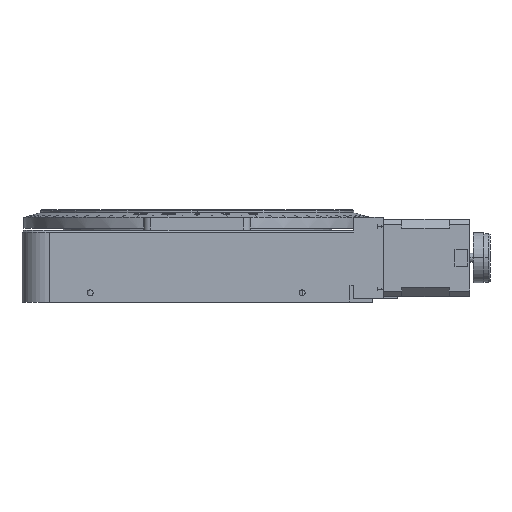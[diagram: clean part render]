
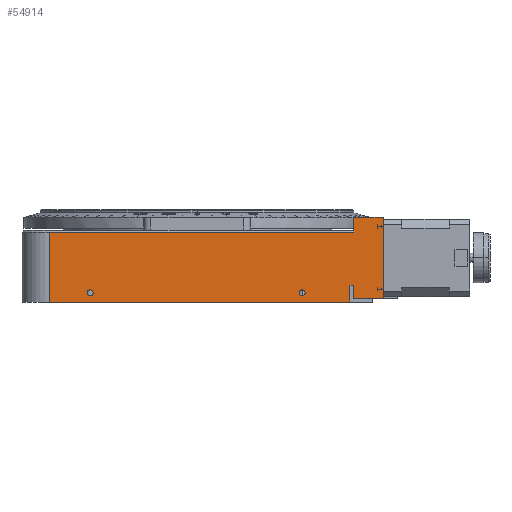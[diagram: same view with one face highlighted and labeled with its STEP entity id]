
A CAD part, left-side view. The second image highlights one B-rep face of the part: STEP entity #54914.
In plain terms, the highlighted planar face has unit normal (-1, 0, 0).
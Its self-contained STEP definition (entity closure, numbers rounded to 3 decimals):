
#27019 = EDGE_CURVE ( 'NONE', #58071, #58164, #37550, .T. ) ;
#27128 = EDGE_CURVE ( 'NONE', #58035, #58137, #37700, .T. ) ;
#27140 = EDGE_CURVE ( 'NONE', #27142, #27266, #37683, .T. ) ;
#27142 = VERTEX_POINT ( 'NONE', #37678 ) ;
#27213 = EDGE_CURVE ( 'NONE', #27266, #27340, #37739, .T. ) ;
#27245 = VERTEX_POINT ( 'NONE', #37802 ) ;
#27266 = VERTEX_POINT ( 'NONE', #37835 ) ;
#27290 = EDGE_CURVE ( 'NONE', #27293, #27245, #37866, .T. ) ;
#27293 = VERTEX_POINT ( 'NONE', #37856 ) ;
#27317 = VERTEX_POINT ( 'NONE', #37877 ) ;
#27340 = VERTEX_POINT ( 'NONE', #37914 ) ;
#27373 = EDGE_CURVE ( 'NONE', #27317, #27142, #37979, .T. ) ;
#28514 = VERTEX_POINT ( 'NONE', #39339 ) ;
#37540 = DIRECTION ( 'NONE',  ( 0., -1., 0. ) ) ;
#37541 = DIRECTION ( 'NONE',  ( 1., 0., 0. ) ) ;
#37542 = CARTESIAN_POINT ( 'NONE',  ( -21.827, -119.488, 5. ) ) ;
#37543 = AXIS2_PLACEMENT_3D ( 'NONE', #37542, #37541, #37540 ) ;
#37550 = CIRCLE ( 'NONE', #37543, 1.621 ) ;
#37678 = CARTESIAN_POINT ( 'NONE',  ( -21.827, -163.488, 2. ) ) ;
#37680 = DIRECTION ( 'NONE',  ( 0., 0., 1. ) ) ;
#37681 = VECTOR ( 'NONE', #37680, 1000. ) ;
#37682 = CARTESIAN_POINT ( 'NONE',  ( -21.827, -163.488, 2. ) ) ;
#37683 = LINE ( 'NONE', #37682, #37681 ) ;
#37696 = DIRECTION ( 'NONE',  ( 0., -1., 0. ) ) ;
#37697 = DIRECTION ( 'NONE',  ( 1., 0., 0. ) ) ;
#37698 = CARTESIAN_POINT ( 'NONE',  ( -21.827, -4.488, 5. ) ) ;
#37699 = AXIS2_PLACEMENT_3D ( 'NONE', #37698, #37697, #37696 ) ;
#37700 = CIRCLE ( 'NONE', #37699, 1.621 ) ;
#37730 = DIRECTION ( 'NONE',  ( 0., 1., 0. ) ) ;
#37731 = VECTOR ( 'NONE', #37730, 1000. ) ;
#37732 = CARTESIAN_POINT ( 'NONE',  ( -21.827, -157.488, 46. ) ) ;
#37739 = LINE ( 'NONE', #37732, #37731 ) ;
#37802 = CARTESIAN_POINT ( 'NONE',  ( -21.827, -147.488, 9. ) ) ;
#37835 = CARTESIAN_POINT ( 'NONE',  ( -21.827, -163.488, 46. ) ) ;
#37856 = CARTESIAN_POINT ( 'NONE',  ( -21.827, -145.488, 9. ) ) ;
#37857 = DIRECTION ( 'NONE',  ( 0., -1., 0. ) ) ;
#37858 = VECTOR ( 'NONE', #37857, 1000. ) ;
#37859 = CARTESIAN_POINT ( 'NONE',  ( -21.827, -157.488, 9. ) ) ;
#37866 = LINE ( 'NONE', #37859, #37858 ) ;
#37877 = CARTESIAN_POINT ( 'NONE',  ( -21.827, -147.488, 2. ) ) ;
#37914 = CARTESIAN_POINT ( 'NONE',  ( -21.827, -147.488, 46. ) ) ;
#37976 = DIRECTION ( 'NONE',  ( 0., -1., 0. ) ) ;
#37977 = VECTOR ( 'NONE', #37976, 1000. ) ;
#37978 = CARTESIAN_POINT ( 'NONE',  ( -21.827, -157.488, 2. ) ) ;
#37979 = LINE ( 'NONE', #37978, #37977 ) ;
#39339 = CARTESIAN_POINT ( 'NONE',  ( -21.827, 17.512, 38. ) ) ;
#39879 = LINE ( 'NONE', #39938, #39937 ) ;
#39906 = DIRECTION ( 'NONE',  ( 0., 1., 0. ) ) ;
#39907 = VECTOR ( 'NONE', #39906, 1000. ) ;
#39908 = CARTESIAN_POINT ( 'NONE',  ( -21.827, -157.488, 38. ) ) ;
#39909 = LINE ( 'NONE', #39908, #39907 ) ;
#39936 = DIRECTION ( 'NONE',  ( 0., 0., -1. ) ) ;
#39937 = VECTOR ( 'NONE', #39936, 1000. ) ;
#39938 = CARTESIAN_POINT ( 'NONE',  ( -21.827, -147.488, 2. ) ) ;
#39970 = CARTESIAN_POINT ( 'NONE',  ( -21.827, -147.488, 38. ) ) ;
#39989 = DIRECTION ( 'NONE',  ( 0., 0., -1. ) ) ;
#39990 = VECTOR ( 'NONE', #39989, 1000. ) ;
#39991 = CARTESIAN_POINT ( 'NONE',  ( -21.827, -147.488, 2. ) ) ;
#39992 = LINE ( 'NONE', #39991, #39990 ) ;
#40855 = CARTESIAN_POINT ( 'NONE',  ( -21.827, -145.488, 0. ) ) ;
#40878 = DIRECTION ( 'NONE',  ( 0., 0., -1. ) ) ;
#40879 = VECTOR ( 'NONE', #40878, 1000. ) ;
#40880 = CARTESIAN_POINT ( 'NONE',  ( -21.827, 17.512, 2. ) ) ;
#40881 = LINE ( 'NONE', #40880, #40879 ) ;
#40887 = CARTESIAN_POINT ( 'NONE',  ( -21.827, 17.512, 0. ) ) ;
#40917 = DIRECTION ( 'NONE',  ( 0., 0., 1. ) ) ;
#40918 = VECTOR ( 'NONE', #40917, 1000. ) ;
#40919 = CARTESIAN_POINT ( 'NONE',  ( -21.827, -145.488, 2. ) ) ;
#40924 = LINE ( 'NONE', #40919, #40918 ) ;
#40948 = DIRECTION ( 'NONE',  ( 0., -1., 0. ) ) ;
#40949 = DIRECTION ( 'NONE',  ( -1., 0., 0. ) ) ;
#40950 = CARTESIAN_POINT ( 'NONE',  ( -21.827, -157.488, 2. ) ) ;
#40951 = AXIS2_PLACEMENT_3D ( 'NONE', #40950, #40949, #40948 ) ;
#40952 = PLANE ( 'NONE',  #40951 ) ;
#40953 = FACE_BOUND ( 'NONE', #54889, .T. ) ;
#40954 = FACE_BOUND ( 'NONE', #54877, .T. ) ;
#40955 = FACE_OUTER_BOUND ( 'NONE', #54915, .T. ) ;
#41066 = DIRECTION ( 'NONE',  ( 0., -1., 0. ) ) ;
#41067 = VECTOR ( 'NONE', #41066, 1000. ) ;
#41068 = CARTESIAN_POINT ( 'NONE',  ( -21.827, -157.488, 0. ) ) ;
#41069 = LINE ( 'NONE', #41068, #41067 ) ;
#46233 = DIRECTION ( 'NONE',  ( 0., -1., 0. ) ) ;
#46234 = DIRECTION ( 'NONE',  ( 1., 0., 0. ) ) ;
#46235 = CARTESIAN_POINT ( 'NONE',  ( -21.827, -4.488, 5. ) ) ;
#46236 = AXIS2_PLACEMENT_3D ( 'NONE', #46235, #46234, #46233 ) ;
#46237 = CIRCLE ( 'NONE', #46236, 1.621 ) ;
#46238 = CARTESIAN_POINT ( 'NONE',  ( -21.827, -2.867, 5. ) ) ;
#46267 = CARTESIAN_POINT ( 'NONE',  ( -21.827, -117.867, 5. ) ) ;
#46326 = CARTESIAN_POINT ( 'NONE',  ( -21.827, -6.109, 5. ) ) ;
#46351 = CARTESIAN_POINT ( 'NONE',  ( -21.827, -121.109, 5. ) ) ;
#46352 = DIRECTION ( 'NONE',  ( 0., -1., 0. ) ) ;
#46353 = DIRECTION ( 'NONE',  ( 1., 0., 0. ) ) ;
#46354 = CARTESIAN_POINT ( 'NONE',  ( -21.827, -119.488, 5. ) ) ;
#46355 = AXIS2_PLACEMENT_3D ( 'NONE', #46354, #46353, #46352 ) ;
#46356 = CIRCLE ( 'NONE', #46355, 1.621 ) ;
#54008 = EDGE_CURVE ( 'NONE', #27340, #54034, #39879, .T. ) ;
#54031 = EDGE_CURVE ( 'NONE', #54034, #28514, #39909, .T. ) ;
#54034 = VERTEX_POINT ( 'NONE', #39970 ) ;
#54065 = EDGE_CURVE ( 'NONE', #27245, #27317, #39992, .T. ) ;
#54801 = ORIENTED_EDGE ( 'NONE', *, *, #27213, .T. ) ;
#54804 = ORIENTED_EDGE ( 'NONE', *, *, #54008, .T. ) ;
#54806 = ORIENTED_EDGE ( 'NONE', *, *, #54031, .T. ) ;
#54810 = ORIENTED_EDGE ( 'NONE', *, *, #54854, .T. ) ;
#54813 = ORIENTED_EDGE ( 'NONE', *, *, #54989, .T. ) ;
#54815 = VERTEX_POINT ( 'NONE', #40855 ) ;
#54847 = VERTEX_POINT ( 'NONE', #40887 ) ;
#54854 = EDGE_CURVE ( 'NONE', #28514, #54847, #40881, .T. ) ;
#54867 = ORIENTED_EDGE ( 'NONE', *, *, #54872, .T. ) ;
#54872 = EDGE_CURVE ( 'NONE', #54815, #27293, #40924, .T. ) ;
#54876 = ORIENTED_EDGE ( 'NONE', *, *, #27290, .T. ) ;
#54877 = EDGE_LOOP ( 'NONE', ( #54882, #54886 ) ) ;
#54882 = ORIENTED_EDGE ( 'NONE', *, *, #58161, .T. ) ;
#54886 = ORIENTED_EDGE ( 'NONE', *, *, #27019, .T. ) ;
#54889 = EDGE_LOOP ( 'NONE', ( #54894, #54898 ) ) ;
#54894 = ORIENTED_EDGE ( 'NONE', *, *, #58040, .T. ) ;
#54898 = ORIENTED_EDGE ( 'NONE', *, *, #27128, .T. ) ;
#54914 = ADVANCED_FACE ( 'NONE', ( #40955, #40954, #40953 ), #40952, .T. ) ;
#54915 = EDGE_LOOP ( 'NONE', ( #54921, #54925, #54928, #54801, #54804, #54806, #54810, #54813, #54867, #54876 ) ) ;
#54921 = ORIENTED_EDGE ( 'NONE', *, *, #54065, .T. ) ;
#54925 = ORIENTED_EDGE ( 'NONE', *, *, #27373, .T. ) ;
#54928 = ORIENTED_EDGE ( 'NONE', *, *, #27140, .T. ) ;
#54989 = EDGE_CURVE ( 'NONE', #54847, #54815, #41069, .T. ) ;
#58035 = VERTEX_POINT ( 'NONE', #46238 ) ;
#58040 = EDGE_CURVE ( 'NONE', #58137, #58035, #46237, .T. ) ;
#58071 = VERTEX_POINT ( 'NONE', #46267 ) ;
#58137 = VERTEX_POINT ( 'NONE', #46326 ) ;
#58161 = EDGE_CURVE ( 'NONE', #58164, #58071, #46356, .T. ) ;
#58164 = VERTEX_POINT ( 'NONE', #46351 ) ;
